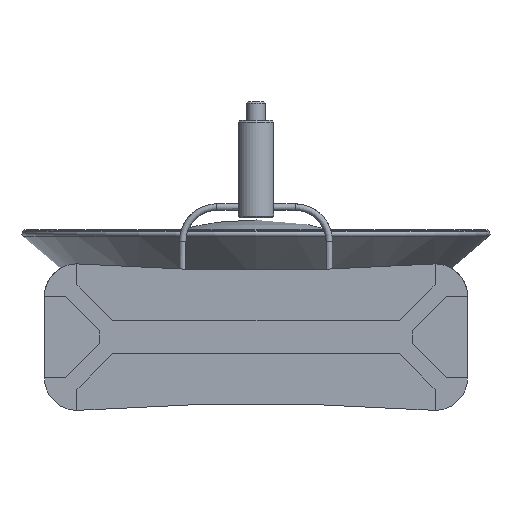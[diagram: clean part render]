
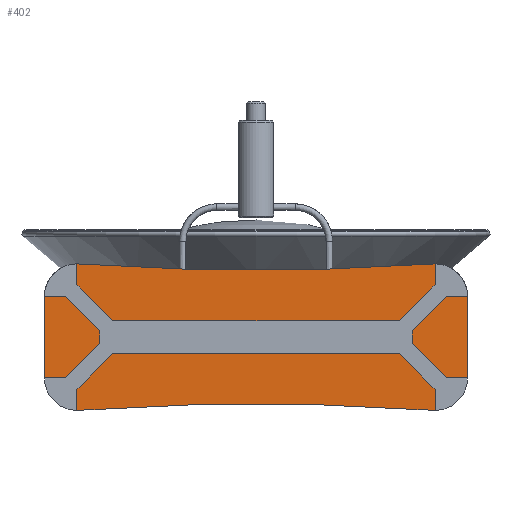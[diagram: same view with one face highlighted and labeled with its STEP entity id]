
A CAD part, left-side view. The second image highlights one B-rep face of the part: STEP entity #402.
In plain terms, the highlighted planar face has unit normal (-1, 0, 0).
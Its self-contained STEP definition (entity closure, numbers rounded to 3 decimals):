
#178=FACE_OUTER_BOUND('',#1433,.T.);
#284=PLANE('',#3199);
#402=ADVANCED_FACE('',(#178),#284,.F.);
#738=LINE('',#4884,#1066);
#739=LINE('',#4886,#1067);
#740=LINE('',#4888,#1068);
#741=LINE('',#4890,#1069);
#742=LINE('',#4892,#1070);
#743=LINE('',#4893,#1071);
#744=LINE('',#4895,#1072);
#745=LINE('',#4897,#1073);
#746=LINE('',#4899,#1074);
#747=LINE('',#4901,#1075);
#1066=VECTOR('',#3750,1.);
#1067=VECTOR('',#3751,1.);
#1068=VECTOR('',#3752,1.);
#1069=VECTOR('',#3753,1.);
#1070=VECTOR('',#3754,1.);
#1071=VECTOR('',#3755,1.);
#1072=VECTOR('',#3756,1.);
#1073=VECTOR('',#3757,1.);
#1074=VECTOR('',#3758,1.);
#1075=VECTOR('',#3759,1.);
#1172=CIRCLE('',#3096,757.25);
#1204=CIRCLE('',#3198,757.25);
#1433=EDGE_LOOP('',(#2034,#2035,#2036,#2037,#2038,#2039,#2040,#2041,#2042,
#2043,#2044,#2045));
#2034=ORIENTED_EDGE('',*,*,#2933,.T.);
#2035=ORIENTED_EDGE('',*,*,#2934,.F.);
#2036=ORIENTED_EDGE('',*,*,#2935,.F.);
#2037=ORIENTED_EDGE('',*,*,#2936,.T.);
#2038=ORIENTED_EDGE('',*,*,#2937,.F.);
#2039=ORIENTED_EDGE('',*,*,#2938,.F.);
#2040=ORIENTED_EDGE('',*,*,#2666,.T.);
#2041=ORIENTED_EDGE('',*,*,#2939,.F.);
#2042=ORIENTED_EDGE('',*,*,#2940,.F.);
#2043=ORIENTED_EDGE('',*,*,#2941,.T.);
#2044=ORIENTED_EDGE('',*,*,#2942,.T.);
#2045=ORIENTED_EDGE('',*,*,#2943,.T.);
#2384=VERTEX_POINT('',#4264);
#2385=VERTEX_POINT('',#4266);
#2571=VERTEX_POINT('',#4882);
#2572=VERTEX_POINT('',#4883);
#2573=VERTEX_POINT('',#4885);
#2574=VERTEX_POINT('',#4887);
#2575=VERTEX_POINT('',#4889);
#2576=VERTEX_POINT('',#4891);
#2577=VERTEX_POINT('',#4894);
#2578=VERTEX_POINT('',#4896);
#2579=VERTEX_POINT('',#4898);
#2580=VERTEX_POINT('',#4900);
#2666=EDGE_CURVE('',#2385,#2384,#1172,.T.);
#2933=EDGE_CURVE('',#2571,#2572,#1204,.T.);
#2934=EDGE_CURVE('',#2573,#2572,#738,.T.);
#2935=EDGE_CURVE('',#2574,#2573,#739,.T.);
#2936=EDGE_CURVE('',#2574,#2575,#740,.T.);
#2937=EDGE_CURVE('',#2576,#2575,#741,.T.);
#2938=EDGE_CURVE('',#2385,#2576,#742,.T.);
#2939=EDGE_CURVE('',#2577,#2384,#743,.T.);
#2940=EDGE_CURVE('',#2578,#2577,#744,.T.);
#2941=EDGE_CURVE('',#2578,#2579,#745,.T.);
#2942=EDGE_CURVE('',#2579,#2580,#746,.T.);
#2943=EDGE_CURVE('',#2580,#2571,#747,.T.);
#3096=AXIS2_PLACEMENT_3D('',#4265,#3322,#3323);
#3198=AXIS2_PLACEMENT_3D('',#4881,#3748,#3749);
#3199=AXIS2_PLACEMENT_3D('',#4902,#3760,#3761);
#3322=DIRECTION('',(1.,0.,0.));
#3323=DIRECTION('',(0.,1.,0.));
#3748=DIRECTION('',(1.,0.,0.));
#3749=DIRECTION('',(0.,1.,0.));
#3750=DIRECTION('',(0.,0.,-1.));
#3751=DIRECTION('',(0.,1.,0.));
#3752=DIRECTION('',(0.,0.,1.));
#3753=DIRECTION('',(0.,-1.,0.));
#3754=DIRECTION('',(0.,0.,-1.));
#3755=DIRECTION('',(0.,0.,1.));
#3756=DIRECTION('',(0.,-1.,0.));
#3757=DIRECTION('',(0.,0.,-1.));
#3758=DIRECTION('',(0.,-1.,0.));
#3759=DIRECTION('',(0.,0.,-1.));
#3760=DIRECTION('',(1.,0.,0.));
#3761=DIRECTION('',(0.,0.,1.));
#4264=CARTESIAN_POINT('',(-345.5,55.,35.15));
#4265=CARTESIAN_POINT('',(-345.5,0.,790.4));
#4266=CARTESIAN_POINT('',(-345.5,-55.,35.15));
#4881=CARTESIAN_POINT('',(-345.5,0.,-765.1));
#4882=CARTESIAN_POINT('',(-345.5,55.,-9.85));
#4883=CARTESIAN_POINT('',(-345.5,-55.,-9.85));
#4884=CARTESIAN_POINT('',(-345.5,-55.,-765.1));
#4885=CARTESIAN_POINT('',(-345.5,-55.,0.15));
#4886=CARTESIAN_POINT('',(-345.5,0.,0.15));
#4887=CARTESIAN_POINT('',(-345.5,-65.,0.15));
#4888=CARTESIAN_POINT('',(-345.5,-65.,25.15));
#4889=CARTESIAN_POINT('',(-345.5,-65.,25.15));
#4890=CARTESIAN_POINT('',(-345.5,0.,25.15));
#4891=CARTESIAN_POINT('',(-345.5,-55.,25.15));
#4892=CARTESIAN_POINT('',(-345.5,-55.,-765.1));
#4893=CARTESIAN_POINT('',(-345.5,55.,-765.1));
#4894=CARTESIAN_POINT('',(-345.5,55.,25.15));
#4895=CARTESIAN_POINT('',(-345.5,0.,25.15));
#4896=CARTESIAN_POINT('',(-345.5,65.,25.15));
#4897=CARTESIAN_POINT('',(-345.5,65.,-9.85));
#4898=CARTESIAN_POINT('',(-345.5,65.,0.15));
#4899=CARTESIAN_POINT('',(-345.5,0.,0.15));
#4900=CARTESIAN_POINT('',(-345.5,55.,0.15));
#4901=CARTESIAN_POINT('',(-345.5,55.,-765.1));
#4902=CARTESIAN_POINT('',(-345.5,0.,-765.1));
